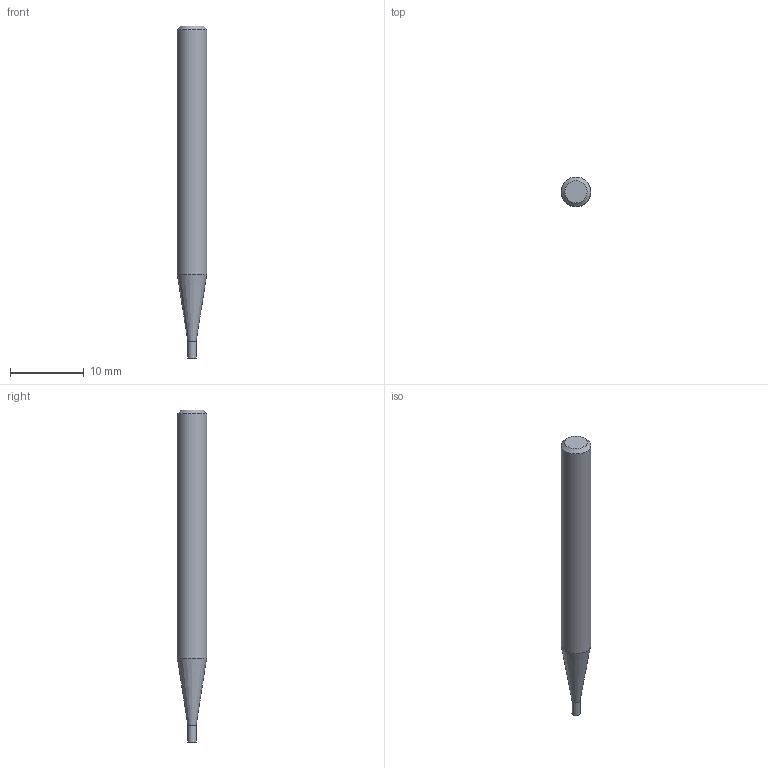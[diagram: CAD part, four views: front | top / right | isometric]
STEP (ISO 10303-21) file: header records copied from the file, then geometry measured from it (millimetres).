
FILE_DESCRIPTION((''),'2;1');
FILE_NAME('C:\Users\nsx150\AppData\Local\Temp\Mastercam 2021\QTW1OOEEGF\TEMP.step','2021-04-08T10:36:18',(''),(''),'STEP Write','Mastercam 2021 ... CNC Software, Inc.','');
FILE_SCHEMA(('AUTOMOTIVE_DESIGN'));
Length unit declared in the file: millimetre
Products named in the file (1): None
Bounding box: 4 x 4 x 45 mm (x, y, z)
Volume: 475.2 mm3; surface area: 516.1 mm2
Topology: 2 solids, 2 shells, 8 faces, 10 edges, 6 vertices
Faces by surface type: plane 4, cylinder 2, cone 2
Full cylindrical faces by diameter (mm): 1.1 x1, 4 x1
Entity records: 190 total; most frequent: DIRECTION 32, CARTESIAN_POINT 22, AXIS2_PLACEMENT_3D 16, ORIENTED_EDGE 12, EDGE_LOOP 12, STYLED_ITEM 11, ADVANCED_FACE 8, VERTEX_POINT 6
